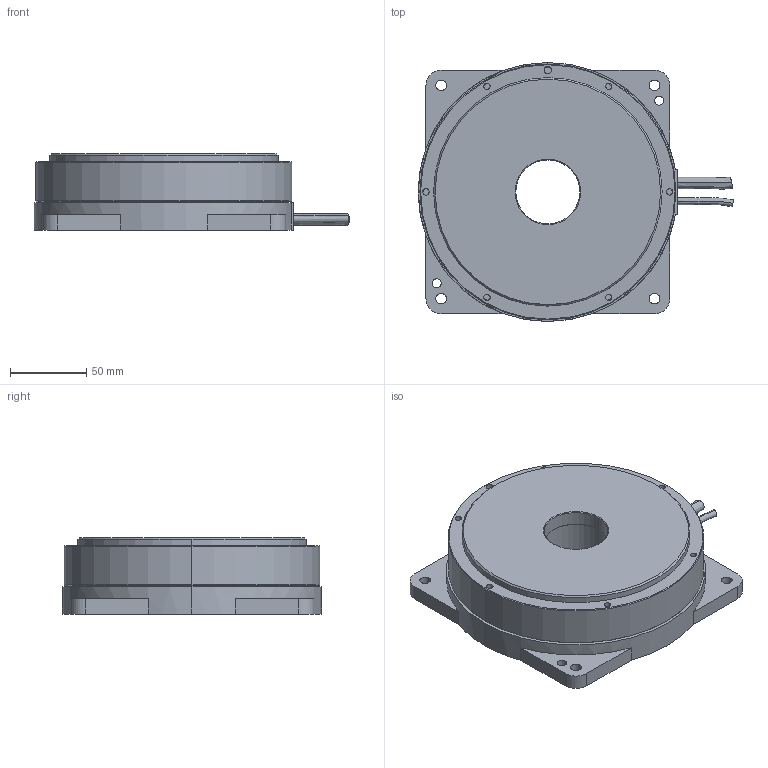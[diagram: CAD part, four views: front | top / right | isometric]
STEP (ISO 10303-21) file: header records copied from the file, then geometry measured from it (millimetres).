
FILE_DESCRIPTION (( 'STEP AP214' ), '1' );
FILE_NAME ('DMFE170-010FE.STEP', '2018-07-27T01:39:27', ( '微软用户' ), ( '微软中国' ), 'SwSTEP 2.0', 'SolidWorks 2014', '' );
FILE_SCHEMA (( 'AUTOMOTIVE_DESIGN' ));
Length unit declared in the file: millimetre
Products named in the file (1): DMFE170-010FE
Bounding box: 206.96 x 170 x 50 mm (x, y, z)
Surface area: 89552 mm2 (no closed solid volume)
Topology: 0 solids, 5 shells, 85 faces, 233 edges, 154 vertices
Faces by surface type: cylinder 48, plane 25, cone 8, bspline 4
Entity records: 3971 total; most frequent: CARTESIAN_POINT 737, DIRECTION 521, ORIENTED_EDGE 428, EDGE_CURVE 233, AXIS2_PLACEMENT_3D 210, VERTEX_POINT 154, CIRCLE 128, EDGE_LOOP 111
